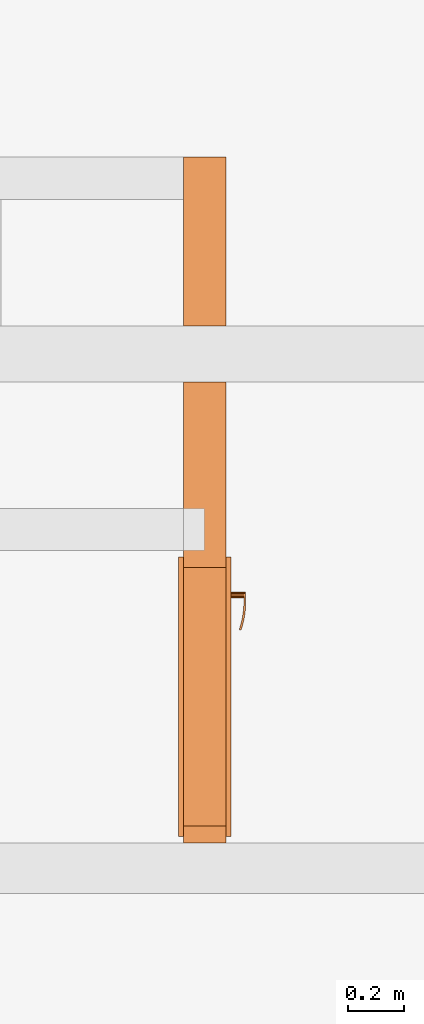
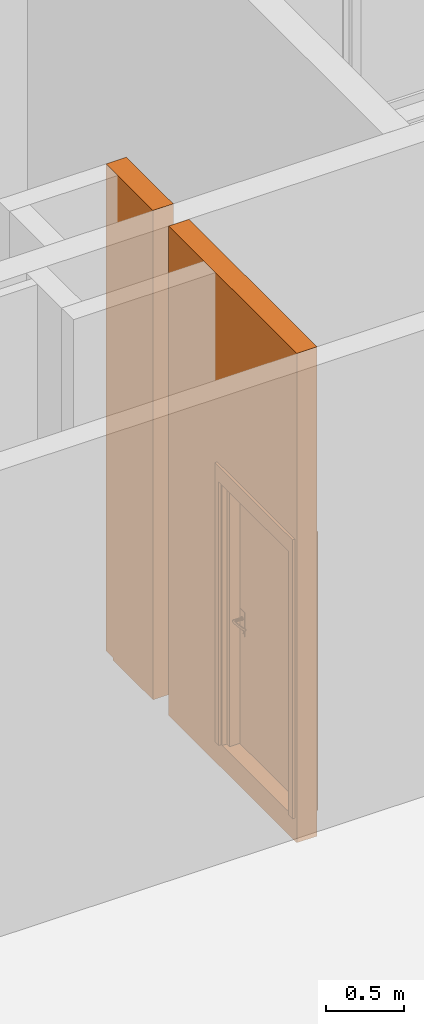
# One storey, part 25 of 46: 2 proxies, 1 opening.
"""IFC2X3 building model written with IfcOpenShell, lengths in millimetres."""

from ifc_helpers import new_model, entity, si_unit, converted_unit, derived_unit, money_unit, direction, frame, origin_with_axes, origin_2d_with_axis, place, context, subcontext, project, spatial, rectangle, extrude, open_shell, faceted_brep, surface_model, source, transform, mapped, material, type_object, element, fill, save


model = new_model("IFC2X3")

# Units and contexts
model_context = context("Model", 3, precision=0.01, world=origin_with_axes(), true_north=direction((0.34421633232, 0.938890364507)))
body_context = subcontext(model_context, "Body", "Model", "MODEL_VIEW")
ifc_project = project(units=[si_unit("LENGTHUNIT", "METRE", prefix="MILLI"), si_unit("AREAUNIT", "SQUARE_METRE"), si_unit("VOLUMEUNIT", "CUBIC_METRE"), converted_unit("PLANEANGLEUNIT", "DEGREE", entity("IfcPlaneAngleMeasure", 0.0174532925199), si_unit("PLANEANGLEUNIT", "RADIAN"), dimensions=[0, 0, 0, 0, 0, 0, 0]), si_unit("SOLIDANGLEUNIT", "STERADIAN"), money_unit("USD"), converted_unit("TIMEUNIT", "Year", entity("IfcTimeMeasure", 31556926.0), si_unit("TIMEUNIT", "SECOND"), dimensions=[0, 0, 1, 0, 0, 0, 0]), si_unit("MASSUNIT", "GRAM", prefix="KILO"), si_unit("THERMODYNAMICTEMPERATUREUNIT", "DEGREE_CELSIUS"), si_unit("LUMINOUSINTENSITYUNIT", "LUMEN"), si_unit("ENERGYUNIT", "JOULE", prefix="MEGA"), derived_unit("THERMALCONDUCTANCEUNIT", [(si_unit("POWERUNIT", "WATT"), 1), (si_unit("LENGTHUNIT", "METRE"), -1), (si_unit("THERMODYNAMICTEMPERATUREUNIT", "KELVIN"), -1)]), derived_unit("SPECIFICHEATCAPACITYUNIT", [(si_unit("ENERGYUNIT", "JOULE"), 1), (si_unit("MASSUNIT", "GRAM", prefix="KILO"), -1), (si_unit("THERMODYNAMICTEMPERATUREUNIT", "KELVIN"), -1)]), derived_unit("MASSDENSITYUNIT", [(si_unit("MASSUNIT", "GRAM", prefix="KILO"), 1), (si_unit("VOLUMEUNIT", "CUBIC_METRE"), -1)])], contexts=[model_context])

# Site, building, storey
site_placement = place(None, origin_with_axes())
site = spatial("IfcSite", under=ifc_project, at=site_placement, Name="USTRONIE MORSKIE", CompositionType="ELEMENT")
building_placement = place(site_placement, origin_with_axes())
building = spatial("IfcBuilding", under=site, at=building_placement, Name="Budynek", CompositionType="ELEMENT")
storey_placement = place(building_placement, origin_with_axes())
storey = spatial("IfcBuildingStorey", under=building, at=storey_placement, Name="PARTER", CompositionType="ELEMENT", Elevation=0.0)

# Proxies, opening
ifc_material = material(Name="Bloczki silikatowe")
building_element_proxy_type_1 = type_object("IfcBuildingElementProxyType", Name="Bloczki silikatowe 150", PredefinedType="NOTDEFINED")
proxy_1_placement = place(storey_placement, frame((353842.920919, 745311.199036, -180.0), z_axis=(0.0, 0.0, 1.0), x_axis=(0.0, -1.0, 0.0)))
proxy_1 = element("IfcBuildingElementProxy", 1, at=proxy_1_placement, inside=storey, type_object=building_element_proxy_type_1, material=ifc_material, Name="SW-03", context=body_context, shape_type="Brep", body=[
    faceted_brep([(0.0, 75.0, 20.0), (-90.0, 75.0, 20.0), (-90.0, 75.0, 3820.0), (510.0, 75.0, 3820.0), (510.0, 75.0, 0.0), (0.0, 75.0, 0.0), (0.0, -75.0, 20.0), (-90.0, -75.0, 20.0), (-90.0, -75.0, 3820.0), (510.0, -75.0, 3820.0), (510.0, -75.0, 0.0), (0.0, -75.0, 0.0)], [[[0, 1, 2, 3, 4, 5]], [[6, 7, 1, 0]], [[7, 8, 2, 1]], [[3, 2, 8, 9]], [[4, 3, 9, 10]], [[10, 11, 5, 4]], [[6, 0, 5, 11]], [[9, 8, 7, 6, 11, 10]]]),
    faceted_brep([(710.0, 75.0, 0.0), (710.0, 75.0, 3820.0), (2349.99990795, 75.0, 3820.0), (2349.99990795, 75.0, 0.0), (710.0, -75.0, 3820.0), (710.0, -75.0, 0.0), (2349.99990795, -75.0, 3820.0), (2349.99990795, -75.0, 0.0)], [[[0, 1, 2, 3]], [[4, 1, 0, 5]], [[1, 4, 6, 2]], [[3, 2, 6, 7]], [[5, 0, 3, 7]], [[4, 5, 7, 6]]]),
])
opening_placement = place(proxy_1_placement, frame((1830.0, 0.0, 180.0), z_axis=(0.0, 0.0, 1.0), x_axis=(1.0, 0.0, 0.0)))
opening = element("IfcOpeningElement", 2, at=opening_placement, cuts=proxy_1, Name="Dw.4", context=body_context, shape_type="SweptSolid", body=[
    extrude(rectangle(XDim=920.0, YDim=2070.0, at=origin_2d_with_axis()), frame((0.0, -150.0, 1035.0), z_axis=(0.0, 1.0, 0.0), x_axis=(1.0, 0.0, 0.0)), (0.0, 0.0, 1.0), 450.0),
    extrude(rectangle(XDim=994.0, YDim=2177.0, at=origin_2d_with_axis()), frame((0.0, -75.0, 1088.5), z_axis=(0.0, 1.0, 0.0), x_axis=(1.0, 0.0, 0.0)), (0.0, 0.0, -1.0), 150.0),
    extrude(rectangle(XDim=994.0, YDim=2177.0, at=origin_2d_with_axis()), frame((0.0, 75.0, 1088.5), z_axis=(0.0, -1.0, 0.0), x_axis=(1.0, 0.0, 0.0)), (0.0, 0.0, -1.0), 150.0),
])
building_element_proxy_type_2 = type_object("IfcBuildingElementProxyType", Name="Drzwi 23", PredefinedType="NOTDEFINED")
shared_shape = source(origin_with_axes(), body_context, "Body", "SurfaceModel", [
    faceted_brep([(-460.0, -115.0, 0.0), (-435.0, -115.0, 0.0), (-435.0, -150.0, 0.0), (-460.0, -150.0, 0.0), (-460.0, -115.0, 2070.0), (-435.0, -115.0, 2045.0), (-435.0, -150.0, 2045.0), (-460.0, -150.0, 2070.0)], [[[0, 1, 2, 3]], [[0, 4, 5, 1]], [[1, 5, 6, 2]], [[3, 2, 6, 7]], [[4, 0, 3, 7]], [[5, 4, 7, 6]]]),
    faceted_brep([(460.0, -115.0, 2070.0), (435.0, -115.0, 2045.0), (435.0, -150.0, 2045.0), (460.0, -150.0, 2070.0), (460.0, -115.0, 0.0), (435.0, -115.0, 0.0), (435.0, -150.0, 0.0), (460.0, -150.0, 0.0)], [[[0, 1, 2, 3]], [[0, 4, 5, 1]], [[1, 5, 6, 2]], [[3, 2, 6, 7]], [[4, 0, 3, 7]], [[5, 4, 7, 6]]]),
    faceted_brep([(-435.0, -115.0, 2045.0), (435.0, -115.0, 2045.0), (435.0, -150.0, 2045.0), (-435.0, -150.0, 2045.0), (-460.0, -115.0, 2070.0), (460.0, -115.0, 2070.0), (460.0, -150.0, 2070.0), (-460.0, -150.0, 2070.0)], [[[0, 1, 2, 3]], [[0, 4, 5, 1]], [[1, 5, 6, 2]], [[3, 2, 6, 7]], [[4, 0, 3, 7]], [[5, 4, 7, 6]]]),
    faceted_brep([(-497.0, -169.0, 0.0), (-497.0, -150.0, 0.0), (-447.0, -150.0, 0.0), (-447.0, -169.0, 0.0), (-497.0, -169.0, 2177.0), (-497.0, -150.0, 2177.0), (-447.0, -150.0, 2057.0), (-447.0, -169.0, 2057.0)], [[[0, 1, 2, 3]], [[4, 5, 1, 0]], [[1, 5, 6, 2]], [[3, 2, 6, 7]], [[0, 3, 7, 4]], [[7, 6, 5, 4]]]),
    faceted_brep([(497.0, -169.0, 2177.0), (497.0, -150.0, 2177.0), (447.0, -150.0, 2057.0), (447.0, -169.0, 2057.0), (497.0, -169.0, 0.0), (497.0, -150.0, 0.0), (447.0, -150.0, 0.0), (447.0, -169.0, 0.0)], [[[0, 1, 2, 3]], [[4, 5, 1, 0]], [[1, 5, 6, 2]], [[3, 2, 6, 7]], [[0, 3, 7, 4]], [[7, 6, 5, 4]]]),
    faceted_brep([(-497.0, -169.0, 2177.0), (-497.0, -150.0, 2177.0), (-447.0, -150.0, 2057.0), (-447.0, -169.0, 2057.0), (497.0, -169.0, 2177.0), (497.0, -150.0, 2177.0), (447.0, -150.0, 2057.0), (447.0, -169.0, 2057.0)], [[[0, 1, 2, 3]], [[4, 5, 1, 0]], [[1, 5, 6, 2]], [[3, 2, 6, 7]], [[0, 3, 7, 4]], [[7, 6, 5, 4]]]),
    faceted_brep([(-497.0, 19.0, 0.0), (-447.0, 19.0, 0.0), (-447.0, 0.0, 0.0), (-497.0, 0.0, 0.0), (-497.0, 19.0, 2177.0), (-447.0, 19.0, 2057.0), (-447.0, 0.0, 2057.0), (-497.0, 0.0, 2177.0)], [[[0, 1, 2, 3]], [[0, 4, 5, 1]], [[1, 5, 6, 2]], [[3, 2, 6, 7]], [[4, 0, 3, 7]], [[5, 4, 7, 6]]]),
    faceted_brep([(497.0, 19.0, 2177.0), (447.0, 19.0, 2057.0), (447.0, 0.0, 2057.0), (497.0, 0.0, 2177.0), (497.0, 19.0, 0.0), (447.0, 19.0, 0.0), (447.0, 0.0, 0.0), (497.0, 0.0, 0.0)], [[[0, 1, 2, 3]], [[0, 4, 5, 1]], [[1, 5, 6, 2]], [[3, 2, 6, 7]], [[4, 0, 3, 7]], [[5, 4, 7, 6]]]),
    faceted_brep([(-497.0, 19.0, 2177.0), (-447.0, 19.0, 2057.0), (-447.0, 0.0, 2057.0), (-497.0, 0.0, 2177.0), (497.0, 19.0, 2177.0), (447.0, 19.0, 2057.0), (447.0, 0.0, 2057.0), (497.0, 0.0, 2177.0)], [[[0, 1, 2, 3]], [[0, 4, 5, 1]], [[1, 5, 6, 2]], [[3, 2, 6, 7]], [[4, 0, 3, 7]], [[5, 4, 7, 6]]]),
    faceted_brep([(-400.0, -40.0, 0.0), (-400.0, -40.0, 2000.0), (-400.0, -115.0, 2000.0), (-400.0, -115.0, 0.0), (-412.0, -40.0, 2000.0), (-412.0, -40.0, 0.0), (-412.0, 0.0, 2000.0), (-460.0, 0.0, 2000.0), (-460.0, -115.0, 2000.0), (-460.0, -115.0, 0.0), (-460.0, 0.0, 0.0), (-412.0, 0.0, 0.0)], [[[0, 1, 2, 3]], [[4, 1, 0, 5]], [[4, 6, 7, 8, 2, 1]], [[3, 2, 8, 9]], [[5, 0, 3, 9, 10, 11]], [[6, 4, 5, 11]], [[6, 11, 10, 7]], [[10, 9, 8, 7]]]),
    faceted_brep([(412.0, -40.0, 2000.0), (400.0, -40.0, 2000.0), (400.0, -115.0, 2000.0), (460.0, -115.0, 2000.0), (460.0, 0.0, 2000.0), (412.0, 0.0, 2000.0), (412.0, -40.0, 0.0), (400.0, -40.0, 0.0), (400.0, -115.0, 0.0), (460.0, -115.0, 0.0), (460.0, 0.0, 0.0), (412.0, 0.0, 0.0)], [[[0, 1, 2, 3, 4, 5]], [[1, 0, 6, 7]], [[1, 7, 8, 2]], [[3, 2, 8, 9]], [[4, 3, 9, 10]], [[11, 5, 4, 10]], [[0, 5, 11, 6]], [[6, 11, 10, 9, 8, 7]]]),
    faceted_brep([(-412.0, 0.0, 2012.0), (-412.0, 0.0, 2000.0), (-460.0, 0.0, 2000.0), (-460.0, 0.0, 2070.0), (460.0, 0.0, 2070.0), (460.0, 0.0, 2000.0), (412.0, 0.0, 2000.0), (412.0, 0.0, 2012.0), (-412.0, -40.0, 2012.0), (-412.0, -40.0, 2000.0), (-400.0, -40.0, 2000.0), (-400.0, -115.0, 2000.0), (-460.0, -115.0, 2000.0), (-460.0, -115.0, 2070.0), (460.0, -115.0, 2070.0), (460.0, -115.0, 2000.0), (412.0, -40.0, 2000.0), (400.0, -115.0, 2000.0), (400.0, -40.0, 2000.0), (412.0, -40.0, 2012.0)], [[[0, 1, 2, 3, 4, 5, 6, 7]], [[1, 0, 8, 9]], [[9, 10, 11, 12, 2, 1]], [[2, 12, 13, 3]], [[3, 13, 14, 4]], [[4, 14, 15, 5]], [[16, 6, 5, 15, 17, 18]], [[7, 6, 16, 19]], [[0, 7, 19, 8]], [[16, 18, 10, 9, 8, 19]], [[10, 18, 17, 11]], [[17, 15, 14, 13, 12, 11]]]),
    faceted_brep([(-390.5, -40.0, 1060.0), (-390.5, -43.0, 1060.0), (-333.5, -43.0, 1060.0), (-333.5, -40.0, 1060.0), (-390.5, -40.0, 870.0), (-390.5, -43.0, 870.0), (-333.5, -43.0, 870.0), (-333.5, -40.0, 870.0)], [[[0, 1, 2, 3]], [[4, 5, 1, 0]], [[1, 5, 6, 2]], [[3, 2, 6, 7]], [[0, 3, 7, 4]], [[7, 6, 5, 4]]]),
    faceted_brep([(-362.0, -104.0, 990.0), (-362.0, -111.0, 990.0), (-367.0, -111.0, 991.339745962), (-367.0, -104.0, 991.339745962), (-337.0, -104.0, 990.0), (-337.0, -111.0, 990.0), (-337.0, -111.0, 1010.0), (-362.0, -111.0, 1010.0), (-367.0, -111.0, 1008.66025404), (-370.660254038, -111.0, 1005.0), (-372.0, -111.0, 1000.0), (-370.660254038, -111.0, 995.0), (-370.660254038, -104.0, 995.0), (-372.0, -104.0, 1000.0), (-370.660254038, -104.0, 1005.0), (-367.0, -104.0, 1008.66025404), (-362.0, -104.0, 1010.0), (-337.0, -104.0, 1010.0)], [[[0, 1, 2, 3]], [[4, 5, 1, 0]], [[1, 5, 6, 7, 8, 9, 10, 11, 2]], [[3, 2, 11, 12]], [[0, 3, 12, 13, 14, 15, 16, 17, 4]], [[17, 6, 5, 4]], [[16, 7, 6, 17]], [[15, 8, 7, 16]], [[14, 9, 8, 15]], [[13, 10, 9, 14]], [[12, 11, 10, 13]]]),
    surface_model("IfcShellBasedSurfaceModel", [(-337.0, -104.0, 1010.0), (-323.596090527, -111.0, 1009.60730092), (-323.901717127, -104.0, 1009.60730092), (-337.0, -111.0, 1010.0), (-296.890283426, -108.663544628, 1008.82190275), (-323.901717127, -104.0, 990.392699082), (-337.0, -104.0, 990.0), (-337.0, -111.0, 990.0), (-323.596090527, -111.0, 990.392699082), (-296.890283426, -108.663544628, 991.178097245), (-297.804837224, -101.716818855, 1008.82190275), (-297.804837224, -101.716818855, 991.178097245), (-270.489735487, -104.008415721, 991.963495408), (-270.489735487, -104.008415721, 1008.03650459), (-272.006256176, -97.1678329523, 1008.03650459), (-272.006256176, -97.1678329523, 991.963495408), (-244.59537082, -97.0700416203, 992.748893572), (-244.59537082, -97.0700416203, 1007.25110643), (-246.702316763, -90.3876628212, 1007.25110643), (-246.702316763, -90.3876628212, 992.748893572), (-236.538795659, -94.1376880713, 993.0), (-236.538795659, -94.1376880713, 1007.0), (-238.829442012, -87.5221707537, 1007.0), (-238.829442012, -87.5221707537, 993.0)], [open_shell([[[0, 1, 2]], [[0, 3, 1]], [[2, 1, 4]], [[0, 2, 5, 6]], [[3, 7, 8, 1]], [[1, 8, 9, 4]], [[2, 4, 10]], [[2, 10, 11, 5]], [[5, 7, 6]], [[5, 8, 7]], [[11, 9, 8]], [[4, 9, 12, 13]], [[10, 4, 13]], [[10, 14, 15, 11]], [[11, 8, 5]], [[15, 9, 11]], [[15, 12, 9]], [[13, 12, 16, 17]], [[10, 13, 14]], [[14, 18, 19, 15]], [[19, 12, 15]], [[19, 16, 12]], [[17, 16, 20, 21]], [[14, 13, 17]], [[14, 17, 18]], [[18, 22, 23, 19]], [[23, 16, 19]], [[23, 20, 16]], [[22, 21, 20, 23]], [[18, 17, 21]], [[18, 21, 22]]])]),
    faceted_brep([(-351.607695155, -53.0, 994.0), (-350.741669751, -43.0, 993.5), (-349.0, -43.0, 1000.0), (-350.0, -53.0, 1000.0), (-356.0, -53.0, 989.607695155), (-355.5, -43.0, 988.741669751), (-362.0, -43.0, 987.0), (-368.5, -43.0, 988.741669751), (-373.258330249, -43.0, 993.5), (-375.0, -43.0, 1000.0), (-373.258330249, -43.0, 1006.5), (-368.5, -43.0, 1011.25833025), (-362.0, -43.0, 1013.0), (-355.5, -43.0, 1011.25833025), (-350.741669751, -43.0, 1006.5), (-351.607695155, -53.0, 1006.0), (-356.0, -53.0, 1010.39230485), (-362.0, -53.0, 1012.0), (-368.0, -53.0, 1010.39230485), (-372.392304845, -53.0, 1006.0), (-374.0, -53.0, 1000.0), (-372.392304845, -53.0, 994.0), (-368.0, -53.0, 989.607695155), (-362.0, -53.0, 988.0)], [[[0, 1, 2, 3]], [[4, 5, 1, 0]], [[2, 1, 5, 6, 7, 8, 9, 10, 11, 12, 13, 14]], [[3, 2, 14, 15]], [[3, 15, 16, 17, 18, 19, 20, 21, 22, 23, 4, 0]], [[23, 6, 5, 4]], [[22, 7, 6, 23]], [[21, 8, 7, 22]], [[20, 9, 8, 21]], [[19, 10, 9, 20]], [[18, 11, 10, 19]], [[17, 12, 11, 18]], [[16, 13, 12, 17]], [[15, 14, 13, 16]]]),
    faceted_brep([(-344.679491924, -47.0, 895.0), (-342.947441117, -43.0, 894.0), (-340.0, -43.0, 905.0), (-342.0, -47.0, 905.0), (-352.0, -47.0, 887.679491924), (-351.0, -43.0, 885.947441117), (-362.0, -43.0, 883.0), (-373.0, -43.0, 885.947441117), (-381.052558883, -43.0, 894.0), (-384.0, -43.0, 905.0), (-381.052558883, -43.0, 916.0), (-373.0, -43.0, 924.052558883), (-362.0, -43.0, 927.0), (-351.0, -43.0, 924.052558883), (-342.947441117, -43.0, 916.0), (-344.679491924, -47.0, 915.0), (-352.0, -47.0, 922.320508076), (-362.0, -47.0, 925.0), (-372.0, -47.0, 922.320508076), (-379.320508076, -47.0, 915.0), (-382.0, -47.0, 905.0), (-379.320508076, -47.0, 895.0), (-372.0, -47.0, 887.679491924), (-362.0, -47.0, 885.0)], [[[0, 1, 2, 3]], [[4, 5, 1, 0]], [[2, 1, 5, 6, 7, 8, 9, 10, 11, 12, 13, 14]], [[3, 2, 14, 15]], [[3, 15, 16, 17, 18, 19, 20, 21, 22, 23, 4, 0]], [[23, 6, 5, 4]], [[22, 7, 6, 23]], [[21, 8, 7, 22]], [[20, 9, 8, 21]], [[19, 10, 9, 20]], [[18, 11, 10, 19]], [[17, 12, 11, 18]], [[16, 13, 12, 17]], [[15, 14, 13, 16]]]),
    faceted_brep([(-357.050252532, -49.0, 909.050252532), (-356.343145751, -47.0, 908.343145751), (-354.0, -47.0, 914.0), (-355.0, -49.0, 914.0), (-362.0, -49.0, 907.0), (-362.0, -47.0, 906.0), (-367.656854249, -47.0, 908.343145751), (-370.0, -47.0, 914.0), (-367.656854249, -47.0, 919.656854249), (-362.0, -47.0, 922.0), (-356.343145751, -47.0, 919.656854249), (-357.050252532, -49.0, 918.949747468), (-362.0, -49.0, 921.0), (-366.949747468, -49.0, 918.949747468), (-369.0, -49.0, 914.0), (-366.949747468, -49.0, 909.050252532)], [[[0, 1, 2, 3]], [[4, 5, 1, 0]], [[2, 1, 5, 6, 7, 8, 9, 10]], [[3, 2, 10, 11]], [[3, 11, 12, 13, 14, 15, 4, 0]], [[15, 6, 5, 4]], [[14, 7, 6, 15]], [[13, 8, 7, 14]], [[12, 9, 8, 13]], [[11, 10, 9, 12]]]),
    faceted_brep([(-362.0, -53.0, 1010.0), (-362.0, -104.0, 1010.0), (-357.0, -104.0, 1008.66025404), (-357.0, -53.0, 1008.66025404), (-367.0, -53.0, 1008.66025404), (-367.0, -104.0, 1008.66025404), (-370.660254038, -104.0, 1005.0), (-372.0, -104.0, 1000.0), (-370.660254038, -104.0, 995.0), (-367.0, -104.0, 991.339745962), (-362.0, -104.0, 990.0), (-357.0, -104.0, 991.339745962), (-353.339745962, -104.0, 995.0), (-352.0, -104.0, 1000.0), (-353.339745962, -104.0, 1005.0), (-353.339745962, -53.0, 1005.0), (-352.0, -53.0, 1000.0), (-353.339745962, -53.0, 995.0), (-357.0, -53.0, 991.339745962), (-362.0, -53.0, 990.0), (-367.0, -53.0, 991.339745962), (-370.660254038, -53.0, 995.0), (-372.0, -53.0, 1000.0), (-370.660254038, -53.0, 1005.0)], [[[0, 1, 2, 3]], [[4, 5, 1, 0]], [[1, 5, 6, 7, 8, 9, 10, 11, 12, 13, 14, 2]], [[3, 2, 14, 15]], [[0, 3, 15, 16, 17, 18, 19, 20, 21, 22, 23, 4]], [[23, 6, 5, 4]], [[22, 7, 6, 23]], [[21, 8, 7, 22]], [[20, 9, 8, 21]], [[19, 10, 9, 20]], [[18, 11, 10, 19]], [[17, 12, 11, 18]], [[16, 13, 12, 17]], [[15, 14, 13, 16]]]),
    faceted_brep([(-390.5, 0.0, 1060.0), (-333.5, 0.0, 1060.0), (-333.5, 3.0, 1060.0), (-390.5, 3.0, 1060.0), (-390.5, 0.0, 870.0), (-333.5, 0.0, 870.0), (-333.5, 3.0, 870.0), (-390.5, 3.0, 870.0)], [[[0, 1, 2, 3]], [[0, 4, 5, 1]], [[1, 5, 6, 2]], [[3, 2, 6, 7]], [[4, 0, 3, 7]], [[5, 4, 7, 6]]]),
    faceted_brep([(-362.0, 64.0, 990.0), (-367.0, 64.0, 991.339745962), (-367.0, 71.0, 991.339745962), (-362.0, 71.0, 990.0), (-337.0, 64.0, 990.0), (-337.0, 64.0, 1010.0), (-362.0, 64.0, 1010.0), (-367.0, 64.0, 1008.66025404), (-370.660254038, 64.0, 1005.0), (-372.0, 64.0, 1000.0), (-370.660254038, 64.0, 995.0), (-370.660254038, 71.0, 995.0), (-372.0, 71.0, 1000.0), (-370.660254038, 71.0, 1005.0), (-367.0, 71.0, 1008.66025404), (-362.0, 71.0, 1010.0), (-337.0, 71.0, 1010.0), (-337.0, 71.0, 990.0)], [[[0, 1, 2, 3]], [[0, 4, 5, 6, 7, 8, 9, 10, 1]], [[1, 10, 11, 2]], [[3, 2, 11, 12, 13, 14, 15, 16, 17]], [[4, 0, 3, 17]], [[5, 4, 17, 16]], [[6, 5, 16, 15]], [[7, 6, 15, 14]], [[8, 7, 14, 13]], [[9, 8, 13, 12]], [[10, 9, 12, 11]]]),
    surface_model("IfcShellBasedSurfaceModel", [(-337.0, 64.0, 1010.0), (-323.901717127, 64.0, 1009.60730092), (-323.596090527, 71.0, 1009.60730092), (-337.0, 64.0, 990.0), (-323.901717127, 64.0, 990.392699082), (-296.890283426, 68.6635446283, 1008.82190275), (-337.0, 71.0, 1010.0), (-337.0, 71.0, 990.0), (-297.804837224, 61.716818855, 991.178097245), (-297.804837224, 61.716818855, 1008.82190275), (-296.890283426, 68.6635446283, 991.178097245), (-323.596090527, 71.0, 990.392699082), (-272.006256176, 57.1678329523, 991.963495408), (-272.006256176, 57.1678329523, 1008.03650459), (-270.489735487, 64.0084157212, 1008.03650459), (-270.489735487, 64.0084157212, 991.963495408), (-246.702316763, 50.3876628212, 992.748893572), (-246.702316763, 50.3876628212, 1007.25110643), (-244.59537082, 57.0700416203, 1007.25110643), (-244.59537082, 57.0700416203, 992.748893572), (-238.829442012, 47.5221707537, 993.0), (-238.829442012, 47.5221707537, 1007.0), (-236.538795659, 54.1376880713, 1007.0), (-236.538795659, 54.1376880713, 993.0)], [open_shell([[[0, 1, 2]], [[0, 3, 4, 1]], [[1, 5, 2]], [[0, 2, 6]], [[4, 3, 7]], [[1, 4, 8, 9]], [[1, 9, 5]], [[2, 5, 10, 11]], [[6, 2, 11, 7]], [[4, 7, 11]], [[8, 4, 11]], [[9, 8, 12, 13]], [[9, 14, 5]], [[5, 14, 15, 10]], [[8, 11, 10]], [[12, 8, 10]], [[13, 12, 16, 17]], [[9, 13, 14]], [[14, 18, 19, 15]], [[12, 10, 15]], [[16, 12, 15]], [[17, 16, 20, 21]], [[13, 17, 18]], [[13, 18, 14]], [[18, 22, 23, 19]], [[16, 15, 19]], [[20, 16, 19]], [[21, 20, 23, 22]], [[17, 21, 22]], [[17, 22, 18]], [[20, 19, 23]]])]),
    faceted_brep([(-351.607695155, 13.0, 994.0), (-350.0, 13.0, 1000.0), (-349.0, 3.0, 1000.0), (-350.741669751, 3.0, 993.5), (-356.0, 13.0, 989.607695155), (-362.0, 13.0, 988.0), (-368.0, 13.0, 989.607695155), (-372.392304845, 13.0, 994.0), (-374.0, 13.0, 1000.0), (-372.392304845, 13.0, 1006.0), (-368.0, 13.0, 1010.39230485), (-362.0, 13.0, 1012.0), (-356.0, 13.0, 1010.39230485), (-351.607695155, 13.0, 1006.0), (-350.741669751, 3.0, 1006.5), (-355.5, 3.0, 1011.25833025), (-362.0, 3.0, 1013.0), (-368.5, 3.0, 1011.25833025), (-373.258330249, 3.0, 1006.5), (-375.0, 3.0, 1000.0), (-373.258330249, 3.0, 993.5), (-368.5, 3.0, 988.741669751), (-362.0, 3.0, 987.0), (-355.5, 3.0, 988.741669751)], [[[0, 1, 2, 3]], [[1, 0, 4, 5, 6, 7, 8, 9, 10, 11, 12, 13]], [[1, 13, 14, 2]], [[2, 14, 15, 16, 17, 18, 19, 20, 21, 22, 23, 3]], [[4, 0, 3, 23]], [[5, 4, 23, 22]], [[6, 5, 22, 21]], [[7, 6, 21, 20]], [[8, 7, 20, 19]], [[9, 8, 19, 18]], [[10, 9, 18, 17]], [[11, 10, 17, 16]], [[12, 11, 16, 15]], [[13, 12, 15, 14]]]),
    faceted_brep([(-344.679491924, 7.0, 895.0), (-342.0, 7.0, 905.0), (-340.0, 3.0, 905.0), (-342.947441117, 3.0, 894.0), (-352.0, 7.0, 887.679491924), (-362.0, 7.0, 885.0), (-372.0, 7.0, 887.679491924), (-379.320508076, 7.0, 895.0), (-382.0, 7.0, 905.0), (-379.320508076, 7.0, 915.0), (-372.0, 7.0, 922.320508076), (-362.0, 7.0, 925.0), (-352.0, 7.0, 922.320508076), (-344.679491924, 7.0, 915.0), (-342.947441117, 3.0, 916.0), (-351.0, 3.0, 924.052558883), (-362.0, 3.0, 927.0), (-373.0, 3.0, 924.052558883), (-381.052558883, 3.0, 916.0), (-384.0, 3.0, 905.0), (-381.052558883, 3.0, 894.0), (-373.0, 3.0, 885.947441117), (-362.0, 3.0, 883.0), (-351.0, 3.0, 885.947441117)], [[[0, 1, 2, 3]], [[1, 0, 4, 5, 6, 7, 8, 9, 10, 11, 12, 13]], [[1, 13, 14, 2]], [[2, 14, 15, 16, 17, 18, 19, 20, 21, 22, 23, 3]], [[4, 0, 3, 23]], [[5, 4, 23, 22]], [[6, 5, 22, 21]], [[7, 6, 21, 20]], [[8, 7, 20, 19]], [[9, 8, 19, 18]], [[10, 9, 18, 17]], [[11, 10, 17, 16]], [[12, 11, 16, 15]], [[13, 12, 15, 14]]]),
    faceted_brep([(-357.050252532, 9.0, 909.050252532), (-355.0, 9.0, 914.0), (-354.0, 7.0, 914.0), (-356.343145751, 7.0, 908.343145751), (-362.0, 9.0, 907.0), (-366.949747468, 9.0, 909.050252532), (-369.0, 9.0, 914.0), (-366.949747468, 9.0, 918.949747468), (-362.0, 9.0, 921.0), (-357.050252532, 9.0, 918.949747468), (-356.343145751, 7.0, 919.656854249), (-362.0, 7.0, 922.0), (-367.656854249, 7.0, 919.656854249), (-370.0, 7.0, 914.0), (-367.656854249, 7.0, 908.343145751), (-362.0, 7.0, 906.0)], [[[0, 1, 2, 3]], [[1, 0, 4, 5, 6, 7, 8, 9]], [[1, 9, 10, 2]], [[2, 10, 11, 12, 13, 14, 15, 3]], [[4, 0, 3, 15]], [[5, 4, 15, 14]], [[6, 5, 14, 13]], [[7, 6, 13, 12]], [[8, 7, 12, 11]], [[9, 8, 11, 10]]]),
    faceted_brep([(-362.0, 13.0, 1010.0), (-357.0, 13.0, 1008.66025404), (-357.0, 64.0, 1008.66025404), (-362.0, 64.0, 1010.0), (-367.0, 13.0, 1008.66025404), (-370.660254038, 13.0, 1005.0), (-372.0, 13.0, 1000.0), (-370.660254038, 13.0, 995.0), (-367.0, 13.0, 991.339745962), (-362.0, 13.0, 990.0), (-357.0, 13.0, 991.339745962), (-353.339745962, 13.0, 995.0), (-352.0, 13.0, 1000.0), (-353.339745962, 13.0, 1005.0), (-353.339745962, 64.0, 1005.0), (-352.0, 64.0, 1000.0), (-353.339745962, 64.0, 995.0), (-357.0, 64.0, 991.339745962), (-362.0, 64.0, 990.0), (-367.0, 64.0, 991.339745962), (-370.660254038, 64.0, 995.0), (-372.0, 64.0, 1000.0), (-370.660254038, 64.0, 1005.0), (-367.0, 64.0, 1008.66025404)], [[[0, 1, 2, 3]], [[0, 4, 5, 6, 7, 8, 9, 10, 11, 12, 13, 1]], [[1, 13, 14, 2]], [[3, 2, 14, 15, 16, 17, 18, 19, 20, 21, 22, 23]], [[4, 0, 3, 23]], [[5, 4, 23, 22]], [[6, 5, 22, 21]], [[7, 6, 21, 20]], [[8, 7, 20, 19]], [[9, 8, 19, 18]], [[10, 9, 18, 17]], [[11, 10, 17, 16]], [[12, 11, 16, 15]], [[13, 12, 15, 14]]]),
    faceted_brep([(412.0, 0.0, 0.0), (412.0, -40.0, 0.0), (-412.0, -40.0, 0.0), (-412.0, 0.0, 0.0), (412.0, 0.0, 2012.0), (412.0, -40.0, 2012.0), (-412.0, -40.0, 2012.0), (-412.0, 0.0, 2012.0)], [[[0, 1, 2, 3]], [[4, 5, 1, 0]], [[1, 5, 6, 2]], [[3, 2, 6, 7]], [[0, 3, 7, 4]], [[7, 6, 5, 4]]]),
])
proxy_2_placement = place(opening_placement, frame((-400.0, 0.0, 0.0), z_axis=(0.0, 0.0, 1.0), x_axis=(1.0, 0.0, 0.0)))
proxy_2 = element("IfcBuildingElementProxy", 3, at=proxy_2_placement, inside=storey, type_object=building_element_proxy_type_2, Name="Dw.4", context=body_context, shape_type="MappedRepresentation", body=[
    mapped(shared_shape, transform((400.0, 75.0, 0.0))),
])
fill(opening, proxy_2)

save(model, "model.ifc")
